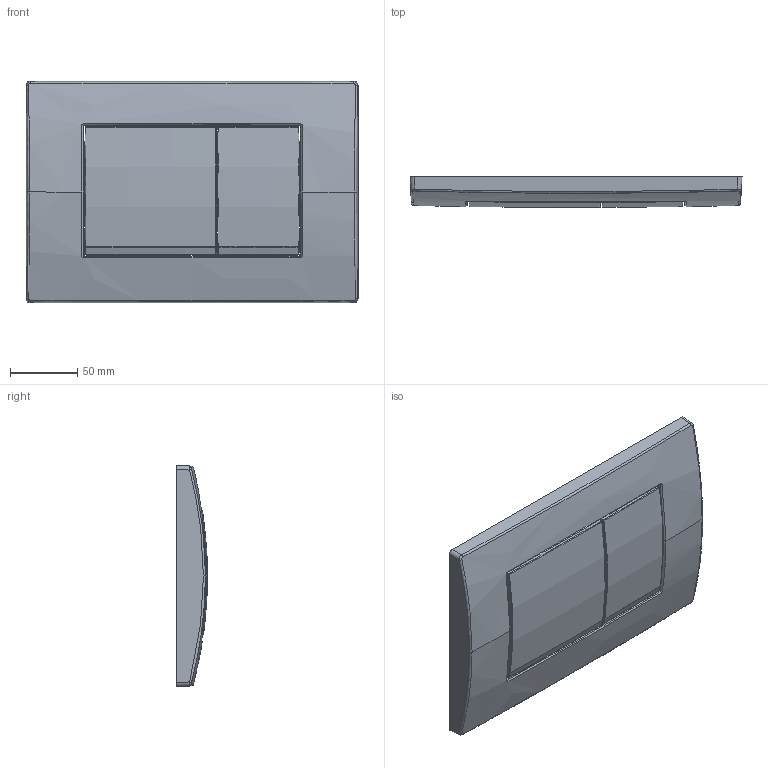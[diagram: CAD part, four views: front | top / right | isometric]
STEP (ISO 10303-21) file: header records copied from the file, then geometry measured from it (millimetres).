
FILE_DESCRIPTION(/* description */ (''),/* implementation_level */ '2;1');
FILE_NAME(/* name */ 'C:\Planerdaten\Export PLA\115.137.11.1\stp\115137.stp',/* time_stamp */ '2021-10-08T09:28:21+02:00',/* author */ ('JANAN'),/* organization */ (''),/* preprocessor_version */ 'ST-DEVELOPER v16.13',/* originating_system */ 'Autodesk Inventor 2018',/* authorisation */ '');
FILE_SCHEMA (('AUTOMOTIVE_DESIGN { 1 0 10303 214 3 1 1 }'));
Length unit declared in the file: millimetre
Products named in the file (1): tmpE63B.tmp
Bounding box: 246 x 22.8 x 164 mm (x, y, z)
Volume: 165764.7 mm3; surface area: 125571.2 mm2
Topology: 3 solids, 3 shells, 248 faces, 656 edges, 413 vertices
Faces by surface type: bspline 136, plane 58, cylinder 32, sphere 12, torus 6, cone 4
Entity records: 18996 total; most frequent: CARTESIAN_POINT 13311, ORIENTED_EDGE 1312, DIRECTION 836, EDGE_CURVE 656, VERTEX_POINT 413, AXIS2_PLACEMENT_3D 315, STYLED_ITEM 251, EDGE_LOOP 249
